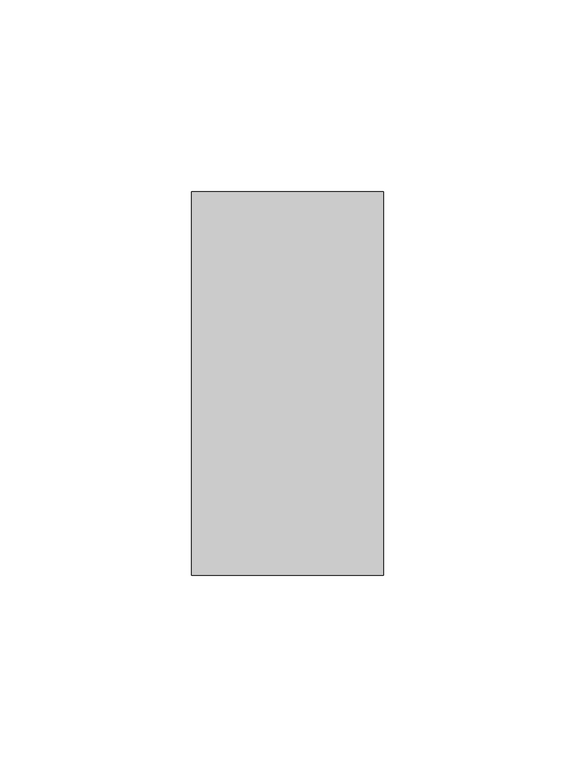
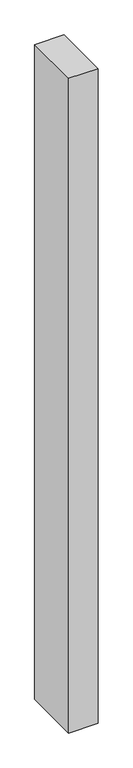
"""IFC4 building model written with IfcOpenShell, lengths in millimetres: member geometry, Прямоугольный импост : 50х100."""

from ifc_helpers import new_model, si_unit, frame, origin, place, context, project, spatial, polyline, outline, extrude, source, transform, mapped, element, save


def member_178848ad(model_context):
    return source(origin(), model_context, "Body", "SweptSolid", [
        extrude(outline(polyline([(0.0, 50.0), (0.0, -50.0), (-50.0, -50.0), (-50.0, 50.0), (0.0, 50.0)])), frame((0.0, 0.0, -1175.0), z_axis=(0.0, 0.0, 1.0), x_axis=(1.0, 0.0, 0.0)), (0.0, 0.0, 1.0), 1175.0),
    ])


if __name__ == "__main__":
    model = new_model("IFC4")
    model_context = context("Model", 3, world=origin())
    ifc_project = project(units=[si_unit("LENGTHUNIT", "METRE", prefix="MILLI")], contexts=[model_context])
    site = spatial("IfcSite", under=ifc_project)
    building = spatial("IfcBuilding", under=site)
    placement = place(None, origin())
    member_shape = member_178848ad(model_context)
    element("IfcMember", 1, ObjectType="Прямоугольный импост : 50х100", at=placement, inside=building, context=model_context, shape_type="MappedRepresentation", body=[
        mapped(member_shape, transform((0.0, 0.0, 0.0), x_axis=(1.0, 0.0, 0.0), y_axis=(0.0, 1.0, 0.0), z_axis=(0.0, 0.0, 1.0))),
    ])
    save(model, "model.ifc")
